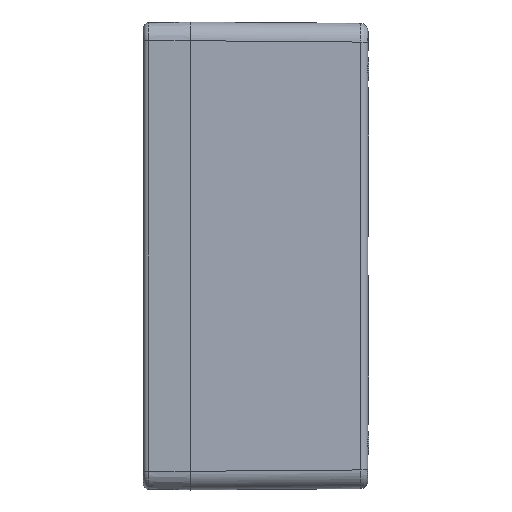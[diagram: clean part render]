
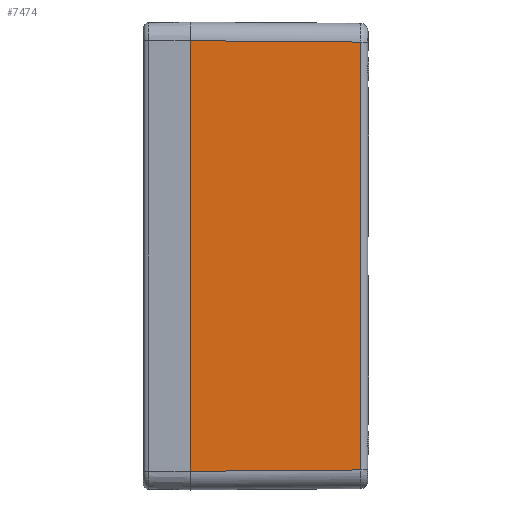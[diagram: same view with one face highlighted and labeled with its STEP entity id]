
A CAD part, left-side view. The second image highlights one B-rep face of the part: STEP entity #7474.
In plain terms, the highlighted planar face has unit normal (-1, -0.008, 0).
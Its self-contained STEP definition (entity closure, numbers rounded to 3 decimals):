
#682=CARTESIAN_POINT('',(-127.5,0.,-115.));
#734=CARTESIAN_POINT('',(-127.5,0.,115.));
#747=DIRECTION('',(0.,0.,-1.));
#748=VECTOR('',#747,230.001);
#749=CARTESIAN_POINT('',(-127.5,0.,115.));
#750=LINE('',#749,#748);
#3075=DIRECTION('',(0.,0.,1.));
#3076=VECTOR('',#3075,228.563);
#3077=CARTESIAN_POINT('',(-126.781,-91.032,
-114.282));
#3078=LINE('',#3077,#3076);
#3134=DIRECTION('',(-0.008,1.,-0.008));
#3135=VECTOR('',#3134,91.037);
#3136=CARTESIAN_POINT('',(-126.781,-91.032,
-114.282));
#3137=LINE('',#3136,#3135);
#3141=DIRECTION('',(-0.008,1.,0.008));
#3142=VECTOR('',#3141,91.037);
#3143=CARTESIAN_POINT('',(-126.781,-91.032,
114.282));
#3144=LINE('',#3143,#3142);
#3148=CARTESIAN_POINT('',(-126.781,-91.032,
-114.282));
#3287=CARTESIAN_POINT('',(-126.781,-91.032,
114.282));
#4086=VERTEX_POINT('',#682);
#4091=VERTEX_POINT('',#734);
#4095=VERTEX_POINT('',#3148);
#4112=VERTEX_POINT('',#3287);
#7461=CARTESIAN_POINT('',(-127.125,-47.5,0.));
#7462=DIRECTION('',(1.,0.008,0.));
#7463=DIRECTION('',(-0.008,1.,0.));
#7464=AXIS2_PLACEMENT_3D('',#7461,#7462,#7463);
#7465=PLANE('',#7464);
#7466=ORIENTED_EDGE('',*,*,#7421,.F.);
#7468=ORIENTED_EDGE('',*,*,#7467,.T.);
#7469=ORIENTED_EDGE('',*,*,#4594,.F.);
#7471=ORIENTED_EDGE('',*,*,#7470,.F.);
#7472=EDGE_LOOP('',(#7466,#7468,#7469,#7471));
#7473=FACE_OUTER_BOUND('',#7472,.F.);
#4594=EDGE_CURVE('',#4091,#4086,#750,.T.);
#7421=EDGE_CURVE('',#4095,#4112,#3078,.T.);
#7467=EDGE_CURVE('',#4095,#4086,#3137,.T.);
#7470=EDGE_CURVE('',#4112,#4091,#3144,.T.);
#7474=ADVANCED_FACE('',(#7473),#7465,.F.);
